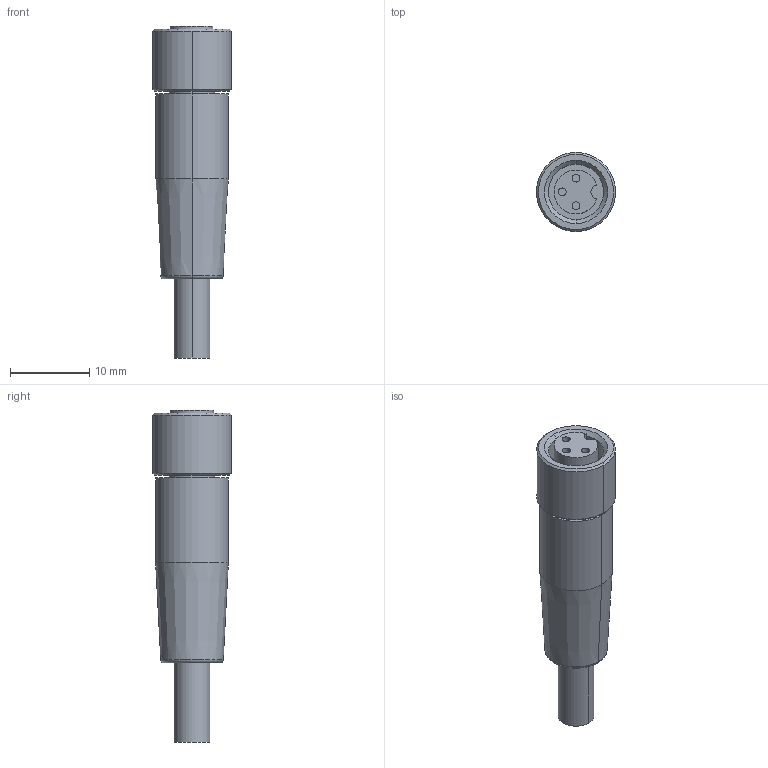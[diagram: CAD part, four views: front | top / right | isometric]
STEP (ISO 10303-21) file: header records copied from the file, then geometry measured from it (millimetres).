
FILE_DESCRIPTION((''),'2;1');
FILE_NAME('1834484166','2024-01-22T14:12:10',('THD3HC'),(''),'CREO PARAMETRIC BY PTC INC, 2020044','CREO PARAMETRIC BY PTC INC, 2020044','');
FILE_SCHEMA(('CONFIG_CONTROL_DESIGN','SHAPE_APPEARANCE_LAYERS_GROUPS'));
Length unit declared in the file: millimetre
Products named in the file (1): 1834484166
Bounding box: 10 x 10 x 42 mm (x, y, z)
Volume: 2147.1 mm3; surface area: 1486.6 mm2
Topology: 1 solids, 1 shells, 38 faces, 74 edges, 46 vertices
Faces by surface type: cylinder 18, plane 10, cone 8, torus 2
Entity records: 1496 total; most frequent: DIRECTION 198, CARTESIAN_POINT 158, ORIENTED_EDGE 148, PRESENTATION_STYLE_ASSIGNMENT 96, AXIS2_PLACEMENT_3D 86, STYLED_ITEM 83, CURVE_STYLE 74, EDGE_CURVE 74
